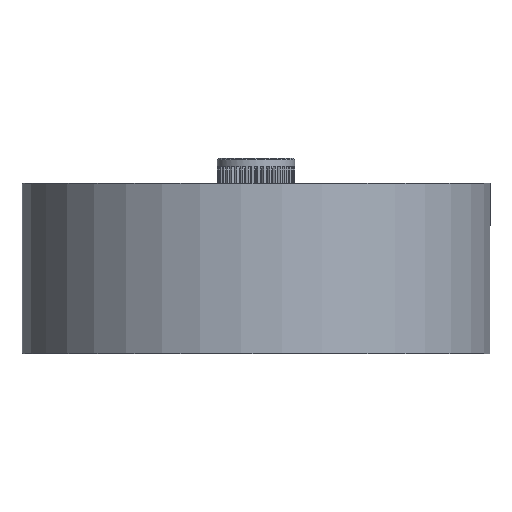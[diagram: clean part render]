
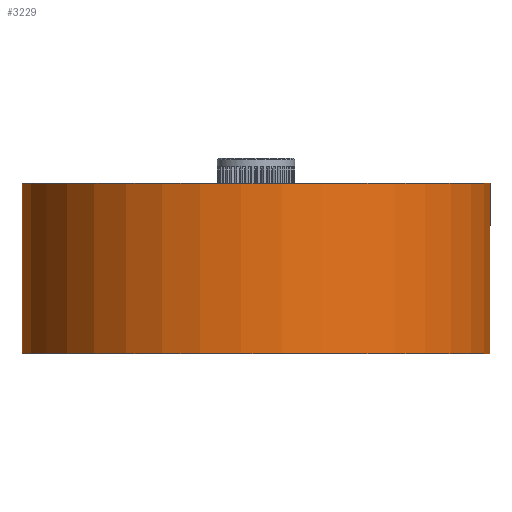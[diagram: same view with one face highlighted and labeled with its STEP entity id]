
A CAD part, front view. The second image highlights one B-rep face of the part: STEP entity #3229.
In plain terms, the highlighted cylindrical face has radius 24 mm (diameter 48 mm), a full revolution.
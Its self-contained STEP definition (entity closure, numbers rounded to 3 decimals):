
#2368=CARTESIAN_POINT('',(13.325,19.961,10.856));
#2369=VERTEX_POINT('',#2368);
#2370=CARTESIAN_POINT('',(0.0,0.0,10.856));
#2371=DIRECTION('',(0.0,0.0,-1.0));
#2372=DIRECTION('',(-0.555,-0.832,0.0));
#2373=AXIS2_PLACEMENT_3D('',#2370,#2371,#2372);
#2374=CIRCLE('',#2373,24.);
#2375=EDGE_CURVE('',#2369,#2369,#2374,.F.);
#3210=CARTESIAN_POINT('',(0.0,0.0,-6.604));
#3211=DIRECTION('',(0.0,0.0,1.0));
#3212=DIRECTION('',(-0.555,-0.832,0.0));
#3213=AXIS2_PLACEMENT_3D('',#3210,#3211,#3212);
#3214=CYLINDRICAL_SURFACE('',#3213,24.);
#3215=ORIENTED_EDGE('',*,*,#2375,.F.);
#3216=EDGE_LOOP('',(#3215));
#3217=FACE_OUTER_BOUND('',#3216,.T.);
#3218=CARTESIAN_POINT('',(13.325,19.961,-6.604));
#3219=VERTEX_POINT('',#3218);
#3220=CARTESIAN_POINT('',(0.0,0.0,-6.604));
#3221=DIRECTION('',(0.0,0.0,1.0));
#3222=DIRECTION('',(-0.555,-0.832,0.0));
#3223=AXIS2_PLACEMENT_3D('',#3220,#3221,#3222);
#3224=CIRCLE('',#3223,24.);
#3225=EDGE_CURVE('',#3219,#3219,#3224,.F.);
#3226=ORIENTED_EDGE('',*,*,#3225,.F.);
#3227=EDGE_LOOP('',(#3226));
#3228=FACE_BOUND('',#3227,.T.);
#3229=ADVANCED_FACE('',(#3217,#3228),#3214,.T.);
